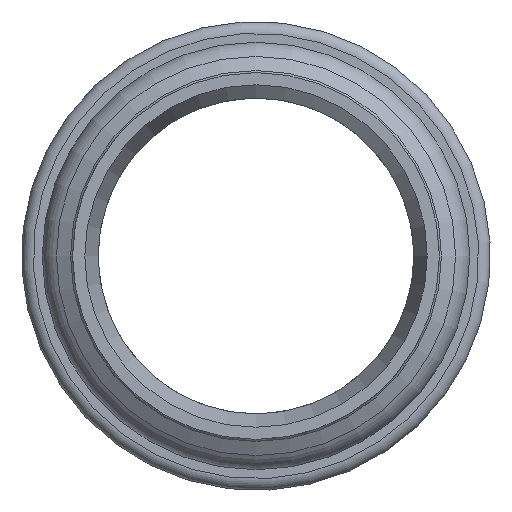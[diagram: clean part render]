
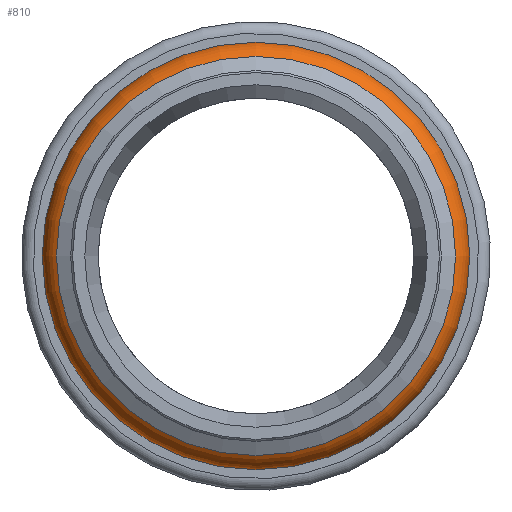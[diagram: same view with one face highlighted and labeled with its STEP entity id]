
A CAD part, left-side view. The second image highlights one B-rep face of the part: STEP entity #810.
In plain terms, the highlighted toroidal (fillet/blend) face has major radius 22.9 mm and minor radius 3.5 mm.
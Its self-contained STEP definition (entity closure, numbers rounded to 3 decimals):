
#628=CARTESIAN_POINT('',(-32.007,23.119,0.0));
#629=VERTEX_POINT('',#628);
#630=CARTESIAN_POINT('',(-32.007,0.,0.0));
#631=DIRECTION('',(1.0,0.0,0.0));
#632=DIRECTION('',(0.0,-1.0,0.0));
#633=AXIS2_PLACEMENT_3D('',#630,#631,#632);
#634=CIRCLE('',#633,23.119);
#635=EDGE_CURVE('',#629,#629,#634,.T.);
#772=CARTESIAN_POINT('',(-38.531,24.65,0.0));
#773=VERTEX_POINT('',#772);
#774=CARTESIAN_POINT('',(-38.531,0.,0.0));
#775=DIRECTION('',(1.0,0.0,0.0));
#776=DIRECTION('',(0.0,1.0,0.0));
#777=AXIS2_PLACEMENT_3D('',#774,#775,#776);
#778=CIRCLE('',#777,24.65);
#779=EDGE_CURVE('',#773,#773,#778,.T.);
#799=CARTESIAN_POINT('',(-35.5,0.,0.0));
#800=DIRECTION('',(1.0,0.,0.0));
#801=DIRECTION('',(0.0,0.0,-1.0));
#802=AXIS2_PLACEMENT_3D('',#799,#800,#801);
#803=TOROIDAL_SURFACE('',#802,22.9,3.5);
#804=ORIENTED_EDGE('',*,*,#779,.T.);
#805=EDGE_LOOP('',(#804));
#806=FACE_OUTER_BOUND('',#805,.T.);
#807=ORIENTED_EDGE('',*,*,#635,.F.);
#808=EDGE_LOOP('',(#807));
#809=FACE_BOUND('',#808,.T.);
#810=ADVANCED_FACE('',(#806,#809),#803,.T.);
